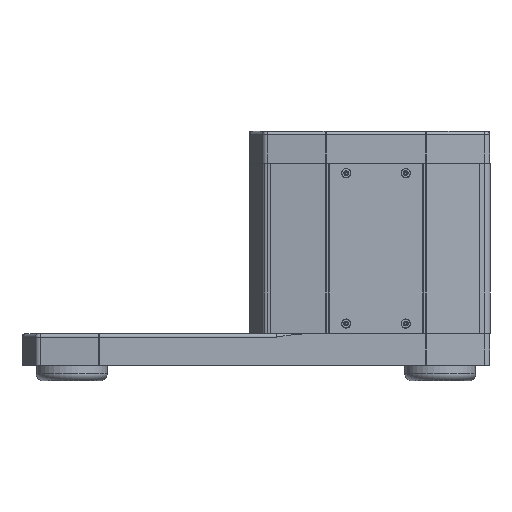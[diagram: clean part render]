
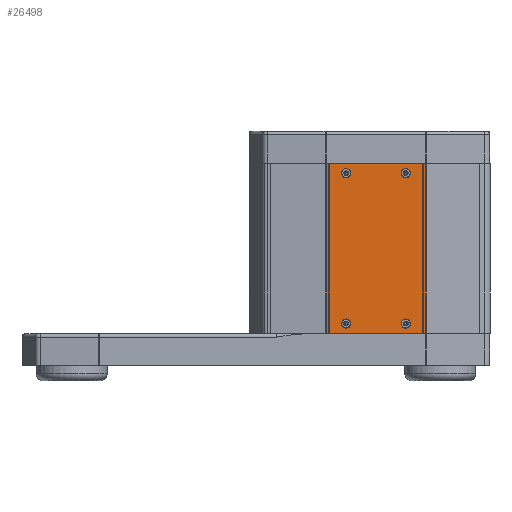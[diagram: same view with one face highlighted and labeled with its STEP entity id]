
A CAD part, front view. The second image highlights one B-rep face of the part: STEP entity #26498.
In plain terms, the highlighted planar face has unit normal (0, -1, 0).
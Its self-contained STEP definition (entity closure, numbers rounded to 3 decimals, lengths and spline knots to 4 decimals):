
#1348=FACE_BOUND('',#8232,.T.);
#1349=FACE_BOUND('',#8233,.T.);
#1350=FACE_BOUND('',#8234,.T.);
#1351=FACE_BOUND('',#8235,.T.);
#1742=LINE('',#39037,#3936);
#1751=LINE('',#39065,#3945);
#1752=LINE('',#39069,#3946);
#1753=LINE('',#39070,#3947);
#3936=VECTOR('',#31438,1.);
#3945=VECTOR('',#31465,1.);
#3946=VECTOR('',#31470,1.);
#3947=VECTOR('',#31471,1.);
#6431=FACE_OUTER_BOUND('',#8231,.T.);
#8231=EDGE_LOOP('',(#18162,#18163,#18164,#18165));
#8232=EDGE_LOOP('',(#18166));
#8233=EDGE_LOOP('',(#18167));
#8234=EDGE_LOOP('',(#18168));
#8235=EDGE_LOOP('',(#18169));
#10216=CIRCLE('',#28384,0.1625);
#10217=CIRCLE('',#28385,0.1625);
#10218=CIRCLE('',#28386,0.1625);
#10219=CIRCLE('',#28387,0.1625);
#11443=VERTEX_POINT('',#39034);
#11444=VERTEX_POINT('',#39036);
#11454=VERTEX_POINT('',#39064);
#11455=VERTEX_POINT('',#39068);
#11456=VERTEX_POINT('',#39071);
#11457=VERTEX_POINT('',#39073);
#11458=VERTEX_POINT('',#39075);
#11459=VERTEX_POINT('',#39077);
#13955=EDGE_CURVE('',#11444,#11443,#1742,.T.);
#13969=EDGE_CURVE('',#11454,#11444,#1751,.T.);
#13971=EDGE_CURVE('',#11455,#11443,#1752,.T.);
#13972=EDGE_CURVE('',#11454,#11455,#1753,.T.);
#13973=EDGE_CURVE('',#11456,#11456,#10216,.T.);
#13974=EDGE_CURVE('',#11457,#11457,#10217,.T.);
#13975=EDGE_CURVE('',#11458,#11458,#10218,.T.);
#13976=EDGE_CURVE('',#11459,#11459,#10219,.T.);
#18162=ORIENTED_EDGE('',*,*,#13971,.F.);
#18163=ORIENTED_EDGE('',*,*,#13972,.F.);
#18164=ORIENTED_EDGE('',*,*,#13969,.T.);
#18165=ORIENTED_EDGE('',*,*,#13955,.T.);
#18166=ORIENTED_EDGE('',*,*,#13973,.T.);
#18167=ORIENTED_EDGE('',*,*,#13974,.T.);
#18168=ORIENTED_EDGE('',*,*,#13975,.T.);
#18169=ORIENTED_EDGE('',*,*,#13976,.T.);
#25690=PLANE('',#28383);
#26498=ADVANCED_FACE('',(#6431,#1348,#1349,#1350,#1351),#25690,.T.);
#28383=AXIS2_PLACEMENT_3D('',#39067,#31468,#31469);
#28384=AXIS2_PLACEMENT_3D('',#39072,#31472,#31473);
#28385=AXIS2_PLACEMENT_3D('',#39074,#31474,#31475);
#28386=AXIS2_PLACEMENT_3D('',#39076,#31476,#31477);
#28387=AXIS2_PLACEMENT_3D('',#39078,#31478,#31479);
#31438=DIRECTION('',(-1.,0.,0.));
#31465=DIRECTION('',(0.,0.,1.));
#31468=DIRECTION('center_axis',(0.,-1.,0.));
#31469=DIRECTION('ref_axis',(0.,0.,-1.));
#31470=DIRECTION('',(0.,0.,1.));
#31471=DIRECTION('',(-1.,0.,0.));
#31472=DIRECTION('center_axis',(0.,1.,0.));
#31473=DIRECTION('ref_axis',(1.,0.,0.));
#31474=DIRECTION('center_axis',(0.,1.,0.));
#31475=DIRECTION('ref_axis',(1.,0.,0.));
#31476=DIRECTION('center_axis',(0.,1.,0.));
#31477=DIRECTION('ref_axis',(1.,0.,0.));
#31478=DIRECTION('center_axis',(0.,1.,0.));
#31479=DIRECTION('ref_axis',(1.,0.,0.));
#39034=CARTESIAN_POINT('',(81.7368,-68.6162,-31.6341));
#39036=CARTESIAN_POINT('',(85.2355,-68.6162,-31.6341));
#39037=CARTESIAN_POINT('',(85.2355,-68.6162,-31.6341));
#39064=CARTESIAN_POINT('',(85.2355,-68.6162,-37.6081));
#39065=CARTESIAN_POINT('',(85.2355,-68.6162,-37.5381));
#39067=CARTESIAN_POINT('Origin',(85.2355,-68.6162,-37.5381));
#39068=CARTESIAN_POINT('',(81.7368,-68.6162,-37.6081));
#39069=CARTESIAN_POINT('',(81.7368,-68.6162,-37.5381));
#39070=CARTESIAN_POINT('',(85.2355,-68.6162,-37.6081));
#39071=CARTESIAN_POINT('',(82.2736,-68.6162,-37.2711));
#39072=CARTESIAN_POINT('Origin',(82.4361,-68.6162,-37.2711));
#39073=CARTESIAN_POINT('',(84.3736,-68.6162,-37.2711));
#39074=CARTESIAN_POINT('Origin',(84.5361,-68.6162,-37.2711));
#39075=CARTESIAN_POINT('',(84.3736,-68.6162,-31.9711));
#39076=CARTESIAN_POINT('Origin',(84.5361,-68.6162,-31.9711));
#39077=CARTESIAN_POINT('',(82.2736,-68.6162,-31.9711));
#39078=CARTESIAN_POINT('Origin',(82.4361,-68.6162,-31.9711));
